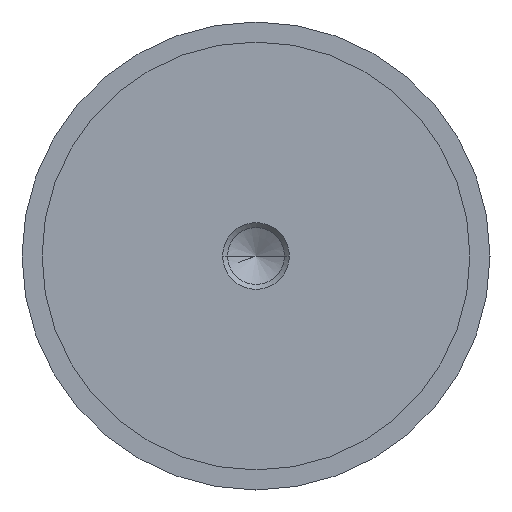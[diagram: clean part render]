
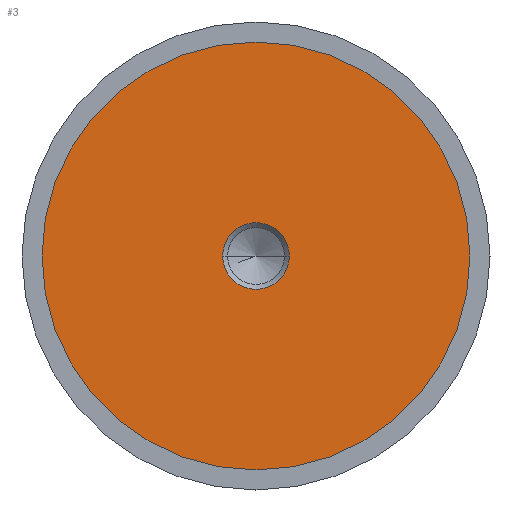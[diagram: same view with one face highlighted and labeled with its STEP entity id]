
A CAD part, left-side view. The second image highlights one B-rep face of the part: STEP entity #3.
In plain terms, the highlighted planar face has unit normal (-1, 0, 0).
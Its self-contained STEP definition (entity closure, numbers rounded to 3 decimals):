
#1 = CARTESIAN_POINT ( 'NONE',  ( -14.99, 0., 0. ) ) ;
#3 = ADVANCED_FACE ( 'NONE', ( #665, #524 ), #128, .F. ) ;
#11 = ORIENTED_EDGE ( 'NONE', *, *, #472, .T. ) ;
#27 = EDGE_LOOP ( 'NONE', ( #43, #811 ) ) ;
#31 = DIRECTION ( 'NONE',  ( 1., 0., 0. ) ) ;
#43 = ORIENTED_EDGE ( 'NONE', *, *, #791, .T. ) ;
#47 = AXIS2_PLACEMENT_3D ( 'NONE', #1, #554, #156 ) ;
#76 = AXIS2_PLACEMENT_3D ( 'NONE', #625, #680, #137 ) ;
#107 = AXIS2_PLACEMENT_3D ( 'NONE', #135, #331, #185 ) ;
#108 = CARTESIAN_POINT ( 'NONE',  ( -14.99, 0., -32. ) ) ;
#128 = PLANE ( 'NONE',  #107 ) ;
#135 = CARTESIAN_POINT ( 'NONE',  ( -14.99, 32., 0. ) ) ;
#137 = DIRECTION ( 'NONE',  ( 0., 0., 1. ) ) ;
#144 = CIRCLE ( 'NONE', #76, 32. ) ;
#156 = DIRECTION ( 'NONE',  ( 0., 0., -1. ) ) ;
#185 = DIRECTION ( 'NONE',  ( 0., 0., -1. ) ) ;
#194 = EDGE_LOOP ( 'NONE', ( #518, #11 ) ) ;
#205 = AXIS2_PLACEMENT_3D ( 'NONE', #699, #794, #861 ) ;
#221 = CIRCLE ( 'NONE', #205, 32. ) ;
#226 = CARTESIAN_POINT ( 'NONE',  ( -14.99, -4.99, 0. ) ) ;
#244 = CIRCLE ( 'NONE', #47, 4.99 ) ;
#269 = VERTEX_POINT ( 'NONE', #871 ) ;
#331 = DIRECTION ( 'NONE',  ( 1., 0., 0. ) ) ;
#374 = AXIS2_PLACEMENT_3D ( 'NONE', #718, #31, #847 ) ;
#414 = EDGE_CURVE ( 'NONE', #885, #464, #144, .T. ) ;
#457 = VERTEX_POINT ( 'NONE', #226 ) ;
#464 = VERTEX_POINT ( 'NONE', #824 ) ;
#472 = EDGE_CURVE ( 'NONE', #269, #457, #244, .T. ) ;
#518 = ORIENTED_EDGE ( 'NONE', *, *, #608, .T. ) ;
#524 = FACE_OUTER_BOUND ( 'NONE', #27, .T. ) ;
#554 = DIRECTION ( 'NONE',  ( 1., 0., 0. ) ) ;
#581 = CIRCLE ( 'NONE', #374, 4.99 ) ;
#608 = EDGE_CURVE ( 'NONE', #457, #269, #581, .T. ) ;
#625 = CARTESIAN_POINT ( 'NONE',  ( -14.99, 0., 0. ) ) ;
#665 = FACE_BOUND ( 'NONE', #194, .T. ) ;
#680 = DIRECTION ( 'NONE',  ( -1., 0., 0. ) ) ;
#699 = CARTESIAN_POINT ( 'NONE',  ( -14.99, 0., 0. ) ) ;
#718 = CARTESIAN_POINT ( 'NONE',  ( -14.99, 0., 0. ) ) ;
#791 = EDGE_CURVE ( 'NONE', #464, #885, #221, .T. ) ;
#794 = DIRECTION ( 'NONE',  ( -1., 0., 0. ) ) ;
#811 = ORIENTED_EDGE ( 'NONE', *, *, #414, .T. ) ;
#824 = CARTESIAN_POINT ( 'NONE',  ( -14.99, 0., 32. ) ) ;
#847 = DIRECTION ( 'NONE',  ( 0., 0., -1. ) ) ;
#861 = DIRECTION ( 'NONE',  ( 0., 0., 1. ) ) ;
#871 = CARTESIAN_POINT ( 'NONE',  ( -14.99, 4.99, 0. ) ) ;
#885 = VERTEX_POINT ( 'NONE', #108 ) ;
